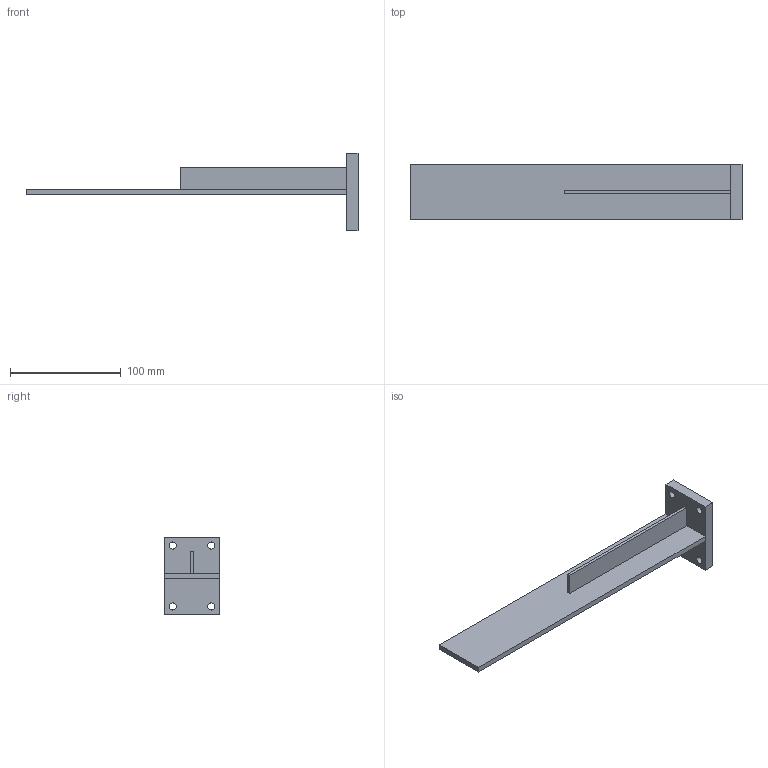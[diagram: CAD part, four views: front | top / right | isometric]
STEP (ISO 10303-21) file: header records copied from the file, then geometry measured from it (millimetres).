
FILE_DESCRIPTION(/* description */ (''),/* implementation_level */ '2;1');
FILE_NAME(/* name */ 'C:\Local Work Area\Progetti\AP\CALIBRI\03 Staffe\03.05-A.stp',/* time_stamp */ '2015-05-22T09:28:08+02:00',/* author */ ('CAD5'),/* organization */ (''),/* preprocessor_version */ 'ST-DEVELOPER v15.2',/* originating_system */ 'Autodesk Inventor 2014',/* authorisation */ '');
FILE_SCHEMA (('AUTOMOTIVE_DESIGN { 1 0 10303 214 3 1 1 }'));
Length unit declared in the file: millimetre
Products named in the file (4): 03.05A-a; 03.05A-b; 03.05A-c; 03.05-A
Bounding box: 300 x 50 x 70 mm (x, y, z)
Volume: 115172.7 mm3; surface area: 49371.3 mm2
Topology: 3 solids, 3 shells, 22 faces, 52 edges, 36 vertices
Faces by surface type: plane 18, cylinder 4
Full cylindrical faces by diameter (mm): 6.5 x4
Entity records: 682 total; most frequent: DIRECTION 110, CARTESIAN_POINT 105, ORIENTED_EDGE 88, EDGE_CURVE 44, AXIS2_PLACEMENT_3D 37, LINE 36, VECTOR 36, EDGE_LOOP 34
